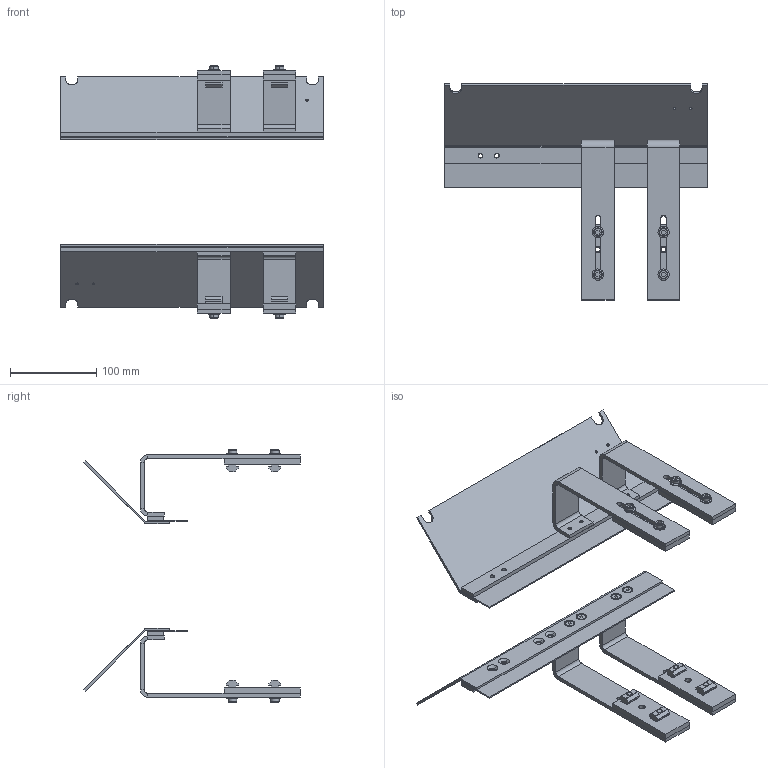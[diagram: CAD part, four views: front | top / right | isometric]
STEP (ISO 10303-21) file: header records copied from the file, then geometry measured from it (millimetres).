
FILE_DESCRIPTION (( 'STEP AP203' ), '1' );
FILE_NAME ('38M601.STEP', '2021-01-08T21:14:57', ( '' ), ( '' ), 'SwSTEP 2.0', 'SolidWorks 2019', '' );
FILE_SCHEMA (( 'CONFIG_CONTROL_DESIGN' ));
Length unit declared in the file: inch
Products named in the file (13): Copy of 301295_ASM^38M601_750283; Copy of 301274^Copy of 301295_ASM_38M601_750283; Copy of 301029M^38M601_750283; Copy of 301279^Copy of 301295_ASM_38M601_750283; Copy of 639971M_1^Copy of 301295_ASM_38M601_750283; Copy of 930512M^Copy of 301295_ASM_38M601_750283; Copy of 300881^38M601_750283; 38M601; Copy of 300882M^38M601_750283; Copy of 920684M^Copy of 301295_ASM_38M601_750283
Assembly tree (42 placements, depth 3):
  38M601
    Copy of 300882M^38M601_750283  x2
    Copy of 300881^38M601_750283  x2
    Copy of 301029M^38M601_750283  x2
    Copy of 301295_ASM^38M601_750283
      Copy of 301279^Copy of 301295_ASM_38M601_750283
      Copy of 301274^Copy of 301295_ASM_38M601_750283
      Copy of 920684M^Copy of 301295_ASM_38M601_750283  x2
      Copy of 639971M_1^Copy of 301295_ASM_38M601_750283  x2
      Copy of 930512M^Copy of 301295_ASM_38M601_750283  x2
    Copy of 301295_ASM^38M601_750283
      Copy of 301279^Copy of 301295_ASM_38M601_750283
      Copy of 301274^Copy of 301295_ASM_38M601_750283
      Copy of 920684M^Copy of 301295_ASM_38M601_750283  x2
      Copy of 639971M_1^Copy of 301295_ASM_38M601_750283  x2
      Copy of 930512M^Copy of 301295_ASM_38M601_750283  x2
    Copy of 301295_ASM^38M601_750283
      Copy of 301279^Copy of 301295_ASM_38M601_750283
      Copy of 301274^Copy of 301295_ASM_38M601_750283
      Copy of 920684M^Copy of 301295_ASM_38M601_750283  x2
      Copy of 639971M_1^Copy of 301295_ASM_38M601_750283  x2
      Copy of 930512M^Copy of 301295_ASM_38M601_750283  x2
    Copy of 301295_ASM^38M601_750283
      Copy of 301279^Copy of 301295_ASM_38M601_750283
      Copy of 301274^Copy of 301295_ASM_38M601_750283
      Copy of 920684M^Copy of 301295_ASM_38M601_750283  x2
      Copy of 639971M_1^Copy of 301295_ASM_38M601_750283  x2
      Copy of 930512M^Copy of 301295_ASM_38M601_750283  x2
Bounding box: 304.93 x 251.18 x 293.79 mm (x, y, z)
Volume: 230586.9 mm3; surface area: 393850.7 mm2
Topology: 22 solids, 58 shells, 892 faces, 2196 edges, 1408 vertices
Faces by surface type: plane 424, cylinder 356, cone 112
Entity records: 8683 total; most frequent: DIRECTION 1224, CARTESIAN_POINT 1168, ORIENTED_EDGE 1000, EDGE_CURVE 512, AXIS2_PLACEMENT_3D 464, VERTEX_POINT 332, LINE 296, VECTOR 296
